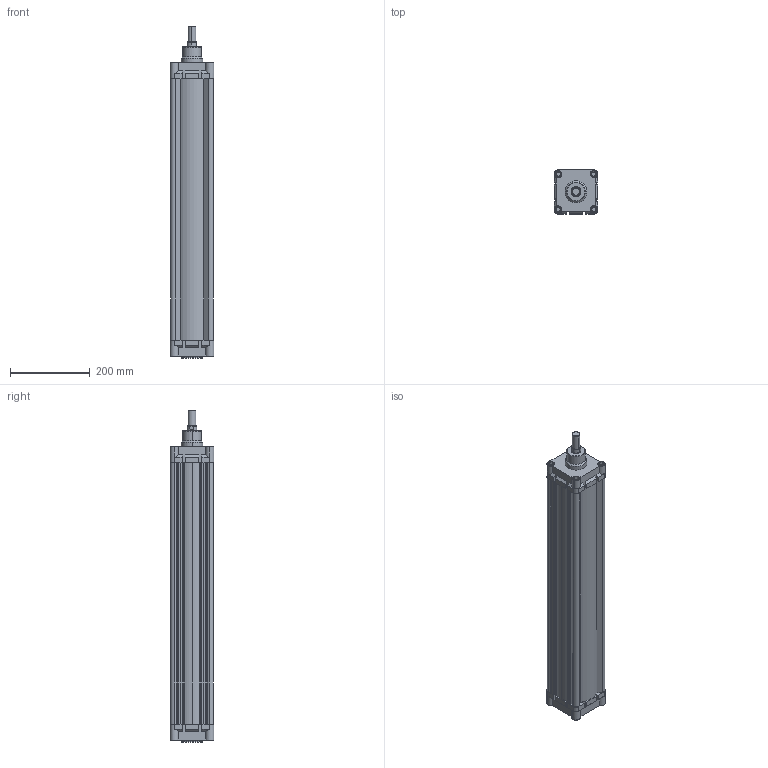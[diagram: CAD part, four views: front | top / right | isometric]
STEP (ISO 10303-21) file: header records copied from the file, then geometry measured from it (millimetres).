
FILE_DESCRIPTION (( 'STEP AP214' ), '1' );
FILE_NAME ('RIC100_600_MY_WEB.STEP', '2020-09-10T17:50:41', ( '' ), ( '' ), 'SwSTEP 2.0', 'SolidWorks 2018', '' );
FILE_SCHEMA (( 'AUTOMOTIVE_DESIGN' ));
Length unit declared in the file: millimetre
Products named in the file (6): RIC_100_BORU_WEB; 25_K_MIL_WEB; RIC100_600_MY_WEB; rýc100arkakapak; RIC_100_ON_KAPAK_WEB; M12 KAPAK CÝVATASI
Assembly tree (12 placements, depth 2):
  RIC100_600_MY_WEB
    RIC_100_ON_KAPAK_WEB
    RIC_100_BORU_WEB
    rýc100arkakapak
    M12 KAPAK CÝVATASI  x8
    25_K_MIL_WEB
Bounding box: 110 x 110 x 834 mm (x, y, z)
Volume: 2739277.2 mm3; surface area: 773045.5 mm2
Topology: 12 solids, 12 shells, 717 faces, 1793 edges, 1155 vertices
Faces by surface type: plane 362, cylinder 209, bspline 81, cone 59, torus 6
Entity records: 22464 total; most frequent: CARTESIAN_POINT 7800, ORIENTED_EDGE 2746, DIRECTION 2408, EDGE_CURVE 1373, VERTEX_POINT 903, VECTOR 826, LINE 826, AXIS2_PLACEMENT_3D 791
